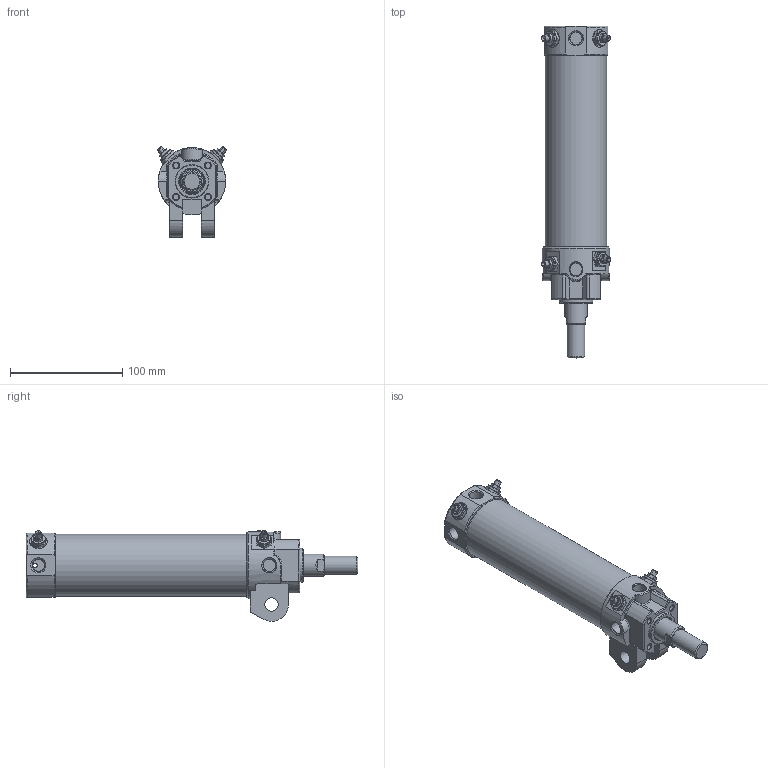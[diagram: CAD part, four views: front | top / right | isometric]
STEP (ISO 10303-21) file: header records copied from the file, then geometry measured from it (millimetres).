
FILE_DESCRIPTION((''),'2;1');
FILE_NAME('I:\3D電子目錄\氣缸\DCK\DCK\DCK-1A-50x125.stp','2008-02-26T14:13:00',('Administrator'),(''),'Autodesk Inventor 11','Autodesk Inventor 11','');
FILE_SCHEMA(('AUTOMOTIVE_DESIGN { 1 0 10303 214 1 1 1 1 }'));
Length unit declared in the file: millimetre
Products named in the file (6): DCK-1A-50; 緩衝針; 緩衝針-1; 緩衝針-201; 緩衝針-3
Assembly tree (8 placements, depth 3):
  DCK-1A-50
    DCK-1A-50
    緩衝針  x4
      緩衝針-1
      緩衝針-201
      緩衝針-3
Bounding box: 61.76 x 296 x 80.87 mm (x, y, z)
Volume: 251376.6 mm3; surface area: 118755.6 mm2
Topology: 15 solids, 15 shells, 570 faces, 1270 edges, 794 vertices
Faces by surface type: plane 213, cylinder 168, cone 133, torus 30, bspline 26
Full cylindrical faces by diameter (mm): 2 x2, 3 x4, 3.8 x2, 4 x6, 4.6 x4, 5 x8, 5.1 x4, 5.2 x12, 5.5 x4, 7.25 x1, 7.9 x4, 8 x2, 10.3 x1, 11.3 x1, 12 x4, 12.8 x4, 16 x2, 20 x1, 21 x1, 22 x2, 23 x1, 24.7 x1, 26 x1, 27 x1, 28 x1, 29 x1, 30 x1, 33 x1, 49.5 x1, 52 x2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
Entity records: 11478 total; most frequent: CARTESIAN_POINT 4706, DIRECTION 1374, ORIENTED_EDGE 1222, EDGE_CURVE 611, AXIS2_PLACEMENT_3D 598, EDGE_LOOP 497, VERTEX_POINT 444, FACE_OUTER_BOUND 321
